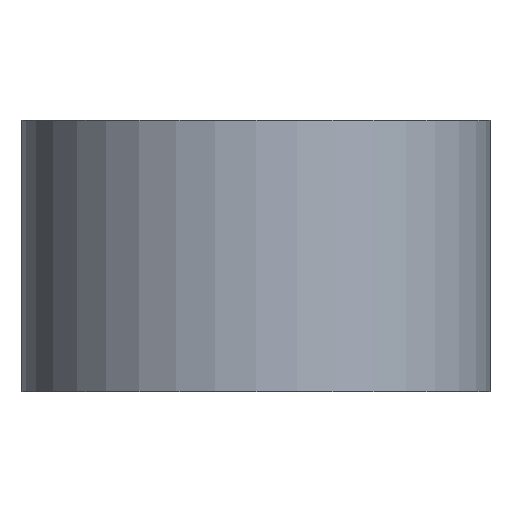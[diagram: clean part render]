
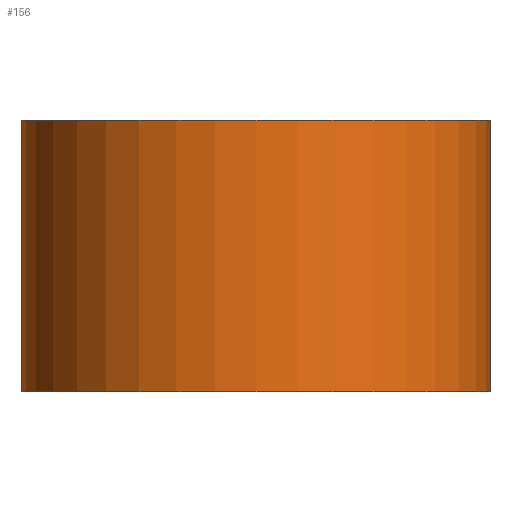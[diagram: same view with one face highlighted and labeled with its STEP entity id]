
A CAD part, front view. The second image highlights one B-rep face of the part: STEP entity #156.
In plain terms, the highlighted cylindrical face has radius 3.45 mm (diameter 6.9 mm), a full revolution.
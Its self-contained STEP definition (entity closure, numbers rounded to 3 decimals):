
#156 = ADVANCED_FACE('',(#157),#171,.T.);
#157 = FACE_BOUND('',#158,.F.);
#158 = EDGE_LOOP('',(#159,#189,#216,#217));
#159 = ORIENTED_EDGE('',*,*,#160,.T.);
#160 = EDGE_CURVE('',#161,#163,#165,.T.);
#161 = VERTEX_POINT('',#162);
#162 = CARTESIAN_POINT('',(-23.25,-24.05,100.));
#163 = VERTEX_POINT('',#164);
#164 = CARTESIAN_POINT('',(-23.25,-24.05,104.));
#165 = SEAM_CURVE('',#166,(#170,#182),.PCURVE_S1.);
#166 = LINE('',#167,#168);
#167 = CARTESIAN_POINT('',(-23.25,-24.05,100.));
#168 = VECTOR('',#169,1.);
#169 = DIRECTION('',(0.,0.,1.));
#170 = PCURVE('',#171,#176);
#171 = CYLINDRICAL_SURFACE('',#172,3.45);
#172 = AXIS2_PLACEMENT_3D('',#173,#174,#175);
#173 = CARTESIAN_POINT('',(-23.25,-27.5,100.));
#174 = DIRECTION('',(-0.,0.,-1.));
#175 = DIRECTION('',(0.,1.,0.));
#176 = DEFINITIONAL_REPRESENTATION('',(#177),#181);
#177 = LINE('',#178,#179);
#178 = CARTESIAN_POINT('',(-0.,0.));
#179 = VECTOR('',#180,1.);
#180 = DIRECTION('',(-0.,-1.));
#181 = ( GEOMETRIC_REPRESENTATION_CONTEXT(2) 
PARAMETRIC_REPRESENTATION_CONTEXT() REPRESENTATION_CONTEXT('2D SPACE',''
  ) );
#182 = PCURVE('',#171,#183);
#183 = DEFINITIONAL_REPRESENTATION('',(#184),#188);
#184 = LINE('',#185,#186);
#185 = CARTESIAN_POINT('',(-6.283,0.));
#186 = VECTOR('',#187,1.);
#187 = DIRECTION('',(-0.,-1.));
#188 = ( GEOMETRIC_REPRESENTATION_CONTEXT(2) 
PARAMETRIC_REPRESENTATION_CONTEXT() REPRESENTATION_CONTEXT('2D SPACE',''
  ) );
#189 = ORIENTED_EDGE('',*,*,#190,.T.);
#190 = EDGE_CURVE('',#163,#163,#191,.T.);
#191 = SURFACE_CURVE('',#192,(#197,#204),.PCURVE_S1.);
#192 = CIRCLE('',#193,3.45);
#193 = AXIS2_PLACEMENT_3D('',#194,#195,#196);
#194 = CARTESIAN_POINT('',(-23.25,-27.5,104.));
#195 = DIRECTION('',(0.,-0.,1.));
#196 = DIRECTION('',(0.,1.,0.));
#197 = PCURVE('',#171,#198);
#198 = DEFINITIONAL_REPRESENTATION('',(#199),#203);
#199 = LINE('',#200,#201);
#200 = CARTESIAN_POINT('',(-0.,-4.));
#201 = VECTOR('',#202,1.);
#202 = DIRECTION('',(-1.,0.));
#203 = ( GEOMETRIC_REPRESENTATION_CONTEXT(2) 
PARAMETRIC_REPRESENTATION_CONTEXT() REPRESENTATION_CONTEXT('2D SPACE',''
  ) );
#204 = PCURVE('',#205,#210);
#205 = PLANE('',#206);
#206 = AXIS2_PLACEMENT_3D('',#207,#208,#209);
#207 = CARTESIAN_POINT('',(-23.25,-27.5,104.));
#208 = DIRECTION('',(0.,0.,1.));
#209 = DIRECTION('',(1.,0.,-0.));
#210 = DEFINITIONAL_REPRESENTATION('',(#211),#215);
#211 = CIRCLE('',#212,3.45);
#212 = AXIS2_PLACEMENT_2D('',#213,#214);
#213 = CARTESIAN_POINT('',(0.,0.));
#214 = DIRECTION('',(0.,1.));
#215 = ( GEOMETRIC_REPRESENTATION_CONTEXT(2) 
PARAMETRIC_REPRESENTATION_CONTEXT() REPRESENTATION_CONTEXT('2D SPACE',''
  ) );
#216 = ORIENTED_EDGE('',*,*,#160,.F.);
#217 = ORIENTED_EDGE('',*,*,#218,.F.);
#218 = EDGE_CURVE('',#161,#161,#219,.T.);
#219 = SURFACE_CURVE('',#220,(#225,#232),.PCURVE_S1.);
#220 = CIRCLE('',#221,3.45);
#221 = AXIS2_PLACEMENT_3D('',#222,#223,#224);
#222 = CARTESIAN_POINT('',(-23.25,-27.5,100.));
#223 = DIRECTION('',(0.,-0.,1.));
#224 = DIRECTION('',(0.,1.,0.));
#225 = PCURVE('',#171,#226);
#226 = DEFINITIONAL_REPRESENTATION('',(#227),#231);
#227 = LINE('',#228,#229);
#228 = CARTESIAN_POINT('',(-0.,0.));
#229 = VECTOR('',#230,1.);
#230 = DIRECTION('',(-1.,0.));
#231 = ( GEOMETRIC_REPRESENTATION_CONTEXT(2) 
PARAMETRIC_REPRESENTATION_CONTEXT() REPRESENTATION_CONTEXT('2D SPACE',''
  ) );
#232 = PCURVE('',#233,#238);
#233 = PLANE('',#234);
#234 = AXIS2_PLACEMENT_3D('',#235,#236,#237);
#235 = CARTESIAN_POINT('',(-23.25,-27.5,100.));
#236 = DIRECTION('',(0.,0.,1.));
#237 = DIRECTION('',(1.,0.,-0.));
#238 = DEFINITIONAL_REPRESENTATION('',(#239),#243);
#239 = CIRCLE('',#240,3.45);
#240 = AXIS2_PLACEMENT_2D('',#241,#242);
#241 = CARTESIAN_POINT('',(0.,0.));
#242 = DIRECTION('',(0.,1.));
#243 = ( GEOMETRIC_REPRESENTATION_CONTEXT(2) 
PARAMETRIC_REPRESENTATION_CONTEXT() REPRESENTATION_CONTEXT('2D SPACE',''
  ) );
